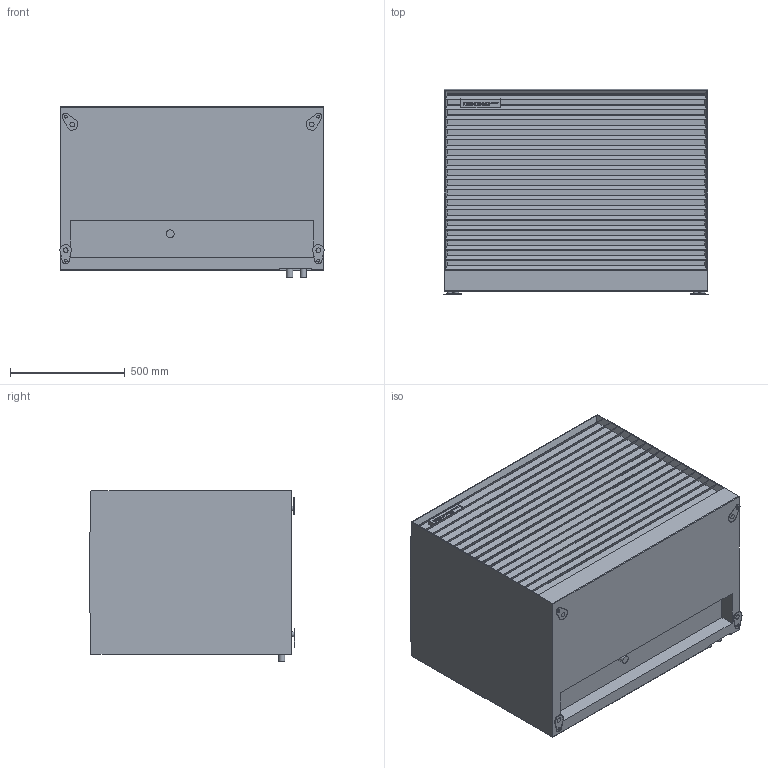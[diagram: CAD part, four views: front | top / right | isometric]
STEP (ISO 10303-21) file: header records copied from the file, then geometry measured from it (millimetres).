
FILE_DESCRIPTION (( 'STEP AP214' ), '1' );
FILE_NAME ('ADAPT 2 S_zadnji priklop.STEP', '2026-03-10T09:22:35', ( '' ), ( '' ), 'SwSTEP 2.0', 'SolidWorks 2024', '' );
FILE_SCHEMA (( 'AUTOMOTIVE_DESIGN' ));
Length unit declared in the file: millimetre
Products named in the file (1): ADAPT 2 S_zadnji priklop
Bounding box: 1153.13 x 898.29 x 745 mm (x, y, z)
Volume: 660435671.6 mm3; surface area: 8070010 mm2
Topology: 1 solids, 1 shells, 586 faces, 1628 edges, 1079 vertices
Faces by surface type: plane 430, cylinder 104, bspline 52
Full cylindrical faces by diameter (mm): 13 x4, 20.483 x4, 28 x2, 34.029 x1
Entity records: 27345 total; most frequent: CARTESIAN_POINT 6721, ORIENTED_EDGE 3228, DIRECTION 2462, EDGE_CURVE 1614, LINE 1296, VECTOR 1296, VERTEX_POINT 1076, EDGE_LOOP 640
